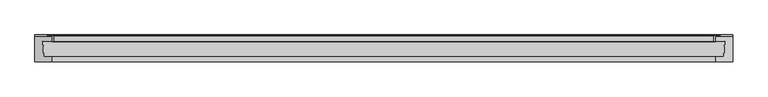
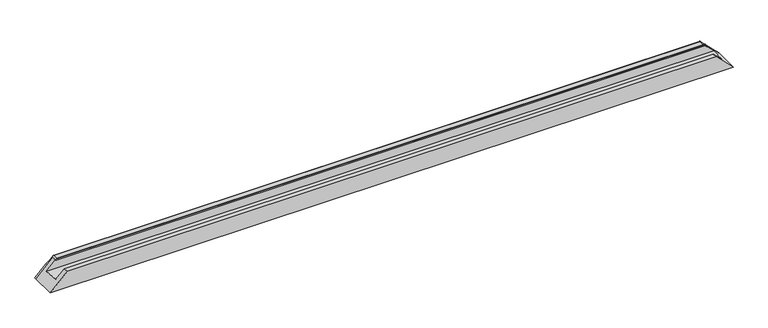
"""IFC4 building model written with IfcOpenShell, lengths in millimetres: proxy geometry, Weiku - Montante - Caixilho duplo 02.2.01.002 : Weiku - Montante - Caixilho duplo 02.2.01.002."""

from ifc_helpers import new_model, si_unit, frame, origin, place, context, project, spatial, polyline, ellipse_curve, faceted_brep, source, transform, mapped, element, save
from ifc_brep_helpers import plane_surface, cylinder_surface, revolved_surface, advanced_brep


def generic_models_7ab80733(model_context):
    return source(origin(), model_context, "Body", "SolidModel", [
        advanced_brep(
        [(-995.5, 60.0, 52.0), (-992.5, 60.0, 55.0), (-991.5, 61.0, 56.0), (-991.5, 78.0, 56.0), (-992.5, 79.0, 55.0), (-1006.5, 79.0, 41.0), (-1009.5, 80.0, 38.0), (-1012.5, 81.0, 35.0), (-1047.5, 81.0, 0.0), (-1047.5, 77.0, 0.0), (-995.5, 77.0, 52.0), (995.5, 60.0, 52.0), (992.5, 60.0, 55.0), (991.5, 61.0, 56.0), (991.5, 78.0, 56.0), (992.5, 79.0, 55.0), (1006.5, 79.0, 41.0), (1009.5, 80.0, 38.0), (1012.5, 81.0, 35.0), (1047.5, 81.0, 0.0), (1047.5, 77.0, 0.0), (995.5, 77.0, 52.0)],
        [
            (0, 1),
            (1, 2, ellipse_curve(frame((-992.5, 61.0, 55.0), z_axis=(-0.7071067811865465, 0.0, 0.7071067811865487), x_axis=(-0.7071067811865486, 0.0, -0.7071067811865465)), 1.4142136, 1.0)),
            (2, 3),
            (3, 4, ellipse_curve(frame((-992.5, 78.0, 55.0), z_axis=(-0.7071067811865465, 0.0, 0.7071067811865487), x_axis=(-0.7071067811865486, 0.0, -0.7071067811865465)), 1.4142136, 1.0)),
            (4, 5),
            (5, 6, ellipse_curve(frame((-1006.5, 84.0, 41.0), z_axis=(0.7071067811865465, 0.0, -0.7071067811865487), x_axis=(0.7071067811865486, 0.0, 0.7071067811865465)), 7.0710678, 5.0)),
            (6, 7, ellipse_curve(frame((-1012.5, 76.0, 35.0), z_axis=(-0.7071067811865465, 0.0, 0.7071067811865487), x_axis=(-0.7071067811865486, 0.0, -0.7071067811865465)), 7.0710678, 5.0)),
            (7, 8),
            (8, 9),
            (9, 10),
            (10, 0),
            (0, 11),
            (11, 12),
            (12, 1),
            (12, 13, ellipse_curve(frame((992.5, 61.0, 55.0), z_axis=(-0.7071067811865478, 0.0, -0.7071067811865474), x_axis=(-0.7071067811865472, 0.0, 0.7071067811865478)), 1.4142136, 1.0)),
            (13, 2),
            (13, 14),
            (14, 3),
            (14, 15, ellipse_curve(frame((992.5, 78.0, 55.0), z_axis=(-0.7071067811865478, 0.0, -0.7071067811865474), x_axis=(-0.7071067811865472, 0.0, 0.7071067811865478)), 1.4142136, 1.0)),
            (15, 4),
            (15, 16),
            (16, 5),
            (16, 17, ellipse_curve(frame((1006.5, 84.0, 41.0), z_axis=(0.7071067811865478, 0.0, 0.7071067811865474), x_axis=(0.7071067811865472, 0.0, -0.7071067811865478)), 7.0710678, 5.0)),
            (17, 6),
            (17, 18, ellipse_curve(frame((1012.5, 76.0, 35.0), z_axis=(-0.7071067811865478, 0.0, -0.7071067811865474), x_axis=(-0.7071067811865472, 0.0, 0.7071067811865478)), 7.0710678, 5.0)),
            (18, 7),
            (19, 8),
            (18, 19),
            (19, 20),
            (20, 9),
            (20, 21),
            (21, 10),
            (21, 11),
        ],
        [
            plane_surface(frame((-1047.5, 0.0, 0.0), z_axis=(-0.7071067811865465, 0.0, 0.7071067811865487), x_axis=(0.0, 1.0, 0.0))),
            plane_surface(frame((-1047.5, 60.0, 52.0), z_axis=(0.0, -1.0, 0.0), x_axis=(1.0, 0.0, 0.0))),
            cylinder_surface(frame((-1047.5, 61.0, 55.0), z_axis=(-1.0, 0.0, 0.0), x_axis=(0.0, 1.0, 0.0)), 1.0),
            plane_surface(frame((-1047.5, 61.0, 56.0), z_axis=(0.0, 0.0, 1.0), x_axis=(1.0, 0.0, 0.0))),
            cylinder_surface(frame((-1047.5, 78.0, 55.0), z_axis=(-1.0, 0.0, 0.0), x_axis=(0.0, 1.0, 0.0)), 1.0),
            plane_surface(frame((-1047.5, 79.0, 55.0), z_axis=(0.0, 1.0, 0.0), x_axis=(1.0, 0.0, 0.0))),
            revolved_surface(polyline([(1011.4999999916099, 89.0, 41.0), (-1011.4999999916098, 89.0, 41.0)]), (-1047.5, 84.0, 41.0), (1.0, 0.0, 0.0)),
            cylinder_surface(frame((-1047.5, 76.0, 35.0), z_axis=(-1.0, 0.0, 0.0), x_axis=(0.0, 1.0, 0.0)), 5.0),
            plane_surface(frame((-1047.5, 81.0, 35.0), z_axis=(0.0, 1.0, 0.0), x_axis=(1.0, 0.0, 0.0))),
            plane_surface(frame((-1047.5, 81.0, 0.0), z_axis=(0.0, 0.0, -1.0), x_axis=(1.0, 0.0, 0.0))),
            plane_surface(frame((-1047.5, 77.0, 0.0), z_axis=(0.0, -1.0, 0.0), x_axis=(1.0, 0.0, 0.0))),
            plane_surface(frame((-1047.5, 77.0, 52.0), z_axis=(0.0, 0.0, -1.0), x_axis=(1.0, 0.0, 0.0))),
            plane_surface(frame((977.5, 0.0, 70.0), z_axis=(0.7071067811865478, 0.0, 0.7071067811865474), x_axis=(0.0, 1.0, 0.0))),
        ],
        [
            (0, [[1, 2, 3, 4, 5, 6, 7, 8, 9, 10, 11]]),
            (1, [[-1, 12, 13, 14]]),
            (2, [[-2, -14, 15, 16]]),
            (3, [[-3, -16, 17, 18]]),
            (4, [[-4, -18, 19, 20]]),
            (5, [[-5, -20, 21, 22]]),
            (6, [[-6, -22, 23, 24]]),
            (7, [[-7, -24, 25, 26]]),
            (8, [[27, -8, -26, 28]]),
            (9, [[-27, 29, 30, -9]]),
            (10, [[-30, 31, 32, -10]]),
            (11, [[-11, -32, 33, -12]]),
            (12, [[-13, -33, -31, -29, -28, -25, -23, -21, -19, -17, -15]]),
        ],
    ),
        faceted_brep([(-1021.5, 15.0, 26.0), (-995.5, 15.0, 52.0), (995.5, 15.0, 52.0), (1021.5, 15.0, 26.0), (-1023.7229744, 62.0, 23.7770256), (1023.7229744, 62.0, 23.7770256), (-995.5, 62.0, 52.0), (995.5, 62.0, 52.0), (-995.5, 77.0, 52.0), (995.5, 77.0, 52.0), (1047.5, 77.0, 0.0), (-1047.5, 77.0, 0.0), (1047.5, 0.0, 0.0), (-1047.5, 0.0, 0.0), (995.5, 0.0, 52.0), (-995.5, 0.0, 52.0)], [[[0, 1, 2, 3]], [[4, 0, 3, 5]], [[6, 4, 5, 7]], [[8, 6, 7, 9]], [[10, 11, 8, 9]], [[11, 10, 12, 13]], [[13, 12, 14, 15]], [[1, 15, 14, 2]], [[1, 0, 4, 6, 8, 11, 13, 15]], [[3, 2, 14, 12, 10, 9, 7, 5]]]),
    ])


if __name__ == "__main__":
    model = new_model("IFC4")
    model_context = context("Model", 3, world=origin())
    ifc_project = project(units=[si_unit("LENGTHUNIT", "METRE", prefix="MILLI")], contexts=[model_context])
    site = spatial("IfcSite", under=ifc_project)
    building = spatial("IfcBuilding", under=site)
    placement = place(None, origin())
    generic_models_shape = generic_models_7ab80733(model_context)
    element("IfcBuildingElementProxy", 1, Name="Weiku - Montante - Caixilho duplo 02.2.01.002 : Weiku - Montante - Caixilho duplo 02.2.01.002", ObjectType="Weiku - Montante - Caixilho duplo 02.2.01.002 : Weiku - Montante - Caixilho duplo 02.2.01.002", at=placement, inside=building, context=model_context, shape_type="MappedRepresentation", body=[
        mapped(generic_models_shape, transform((0.0, 0.0, 0.0), x_axis=(1.0, 0.0, 0.0), y_axis=(0.0, 1.0, 0.0), z_axis=(0.0, 0.0, 1.0))),
    ])
    save(model, "model.ifc")
